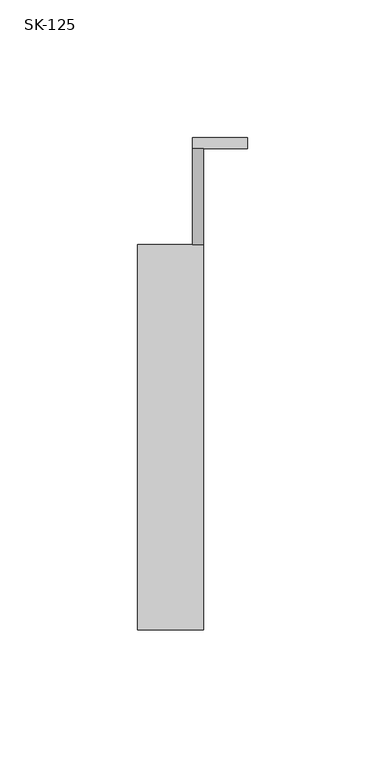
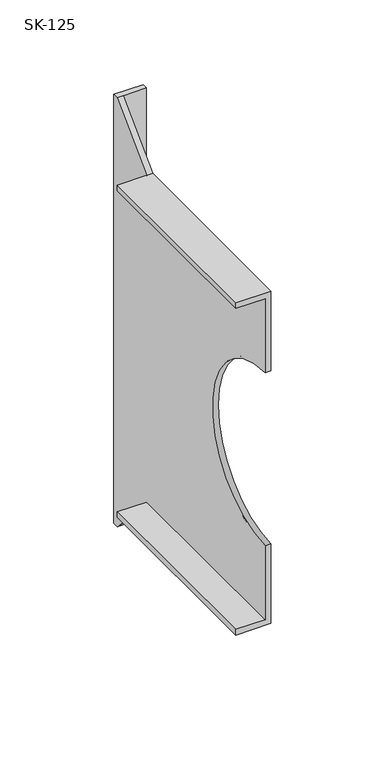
"""IFC4 building model written with IfcOpenShell, lengths in millimetres: duct fitting geometry, СВ_Кронштейн_Круглый_DN100-315_SK : SK-125."""

from ifc_helpers import new_model, si_unit, frame, origin, place, context, project, spatial, polyline, circle_curve, source, transform, mapped, element, save
from ifc_brep_helpers import plane_surface, revolved_surface, advanced_brep


def sk_125_be8d9755(model_context):
    return source(origin(), model_context, "Body", "AdvancedBrep", [
        advanced_brep(
        [(4.0, 175.0, 155.0), (4.0, 140.0, 120.0), (4.0, 0.0, 120.0), (4.0, 0.0, 62.5), (4.0, 0.0, -62.5), (4.0, 0.0, -120.0), (4.0, 140.0, -120.0), (4.0, 175.0, -155.0), (0.0, 175.0, -155.0), (0.0, 140.0, -120.0), (0.0, 140.0, -116.0), (0.0, 0.0, -116.0), (0.0, 0.0, -62.5), (0.0, 0.0, 62.5), (0.0, 0.0, 116.0), (0.0, 140.0, 116.0), (0.0, 140.0, 120.0), (0.0, 175.0, 155.0), (0.0, 179.0, 155.0), (0.0, 179.0, -155.0), (-20.0, 140.0, 120.0), (-20.0, 0.0, 120.0), (-20.0, 0.0, 116.0), (-20.0, 0.0, -116.0), (-20.0, 0.0, -120.0), (-20.0, 140.0, -120.0), (-20.0, 140.0, -116.0), (-20.0, 140.0, 116.0), (20.0, 175.0, -155.0), (20.0, 179.0, -155.0), (20.0, 179.0, 155.0), (20.0, 175.0, 155.0)],
        [
            (0, 1),
            (1, 2),
            (2, 3),
            (3, 4, circle_curve(frame((4.0, 0.0, 0.0), z_axis=(-1.0, 0.0, 0.0), x_axis=(0.0, 1.0, 0.0)), 62.5)),
            (4, 5),
            (5, 6),
            (6, 7),
            (7, 0),
            (8, 9),
            (9, 10),
            (10, 11),
            (11, 12),
            (12, 13, circle_curve(frame((0.0, 0.0, 0.0), z_axis=(1.0, 0.0, 0.0), x_axis=(0.0, 1.0, 0.0)), 62.5)),
            (13, 14),
            (14, 15),
            (15, 16),
            (16, 17),
            (17, 18),
            (18, 19),
            (19, 8),
            (0, 17),
            (16, 1),
            (16, 20),
            (20, 21),
            (21, 2),
            (21, 22),
            (22, 14),
            (13, 3),
            (12, 4),
            (11, 23),
            (23, 24),
            (24, 5),
            (24, 25),
            (25, 9),
            (9, 6),
            (8, 7),
            (23, 26),
            (26, 25),
            (27, 22),
            (20, 27),
            (15, 27),
            (26, 10),
            (28, 29),
            (29, 30),
            (30, 31),
            (31, 28),
            (19, 29),
            (28, 7),
            (18, 30),
            (0, 31),
        ],
        [
            plane_surface(frame((4.0, 175.0, 155.0), z_axis=(1.0, 0.0, 0.0), x_axis=(0.0, 0.0, 1.0))),
            plane_surface(frame((0.0, 175.0, 155.0), z_axis=(-1.0, 0.0, 0.0), x_axis=(0.0, 0.0, -1.0))),
            plane_surface(frame((4.0, 175.0, 155.0), z_axis=(0.0, -0.7071067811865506, 0.7071067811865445), x_axis=(-1.0, 0.0, 0.0))),
            plane_surface(frame((4.0, 140.0, 120.0), z_axis=(0.0, 0.0, 1.0), x_axis=(-1.0, 0.0, 0.0))),
            plane_surface(frame((4.0, 0.0, 120.0), z_axis=(0.0, -1.0, 0.0), x_axis=(-1.0, 0.0, 0.0))),
            revolved_surface(polyline([(0.0, 62.5, 0.0), (4.0, 62.5, 0.0)]), (0.0, 0.0, 0.0), (-1.0, 0.0, 0.0)),
            plane_surface(frame((4.0, 0.0, -62.5), z_axis=(0.0, -1.0, 0.0), x_axis=(-1.0, 0.0, 0.0))),
            plane_surface(frame((4.0, 0.0, -120.0), z_axis=(0.0, 0.0, -1.0), x_axis=(-1.0, 0.0, 0.0))),
            plane_surface(frame((4.0, 140.0, -120.0), z_axis=(0.0, -0.7071067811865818, -0.7071067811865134), x_axis=(-1.0, 0.0, 0.0))),
            plane_surface(frame((-20.0, 140.0, 120.0), z_axis=(-1.0, 0.0, 0.0), x_axis=(0.0, 0.0, -1.0))),
            plane_surface(frame((0.0, 140.0, 116.0), z_axis=(0.0, 1.0, 0.0), x_axis=(-1.0, 0.0, 0.0))),
            plane_surface(frame((0.0, 0.0, 116.0), z_axis=(0.0, 0.0, -1.0), x_axis=(-1.0, 0.0, 0.0))),
            plane_surface(frame((0.0, 140.0, -120.0), z_axis=(0.0, 1.0, 0.0), x_axis=(-1.0, 0.0, 0.0))),
            plane_surface(frame((0.0, 140.0, -116.0), z_axis=(0.0, 0.0, 1.0), x_axis=(-1.0, 0.0, 0.0))),
            plane_surface(frame((20.0, 175.0, -155.0), z_axis=(1.0, 0.0, 0.0), x_axis=(0.0, 1.0, 0.0))),
            plane_surface(frame((20.0, 175.0, -155.0), z_axis=(0.0, 0.0, -1.0), x_axis=(-1.0, 0.0, 0.0))),
            plane_surface(frame((20.0, 179.0, -155.0), z_axis=(0.0, 1.0, 0.0), x_axis=(-1.0, 0.0, 0.0))),
            plane_surface(frame((20.0, 179.0, 155.0), z_axis=(0.0, 0.0, 1.0), x_axis=(-1.0, 0.0, 0.0))),
            plane_surface(frame((20.0, 175.0, 155.0), z_axis=(0.0, -1.0, 0.0), x_axis=(-1.0, 0.0, 0.0))),
        ],
        [
            (0, [[1, 2, 3, 4, 5, 6, 7, 8]]),
            (1, [[9, 10, 11, 12, 13, 14, 15, 16, 17, 18, 19, 20]]),
            (2, [[-1, 21, -17, 22]]),
            (3, [[-2, -22, 23, 24, 25]]),
            (4, [[-3, -25, 26, 27, -14, 28]]),
            (5, [[-4, -28, -13, 29]]),
            (6, [[-5, -29, -12, 30, 31, 32]]),
            (7, [[-6, -32, 33, 34, 35]]),
            (8, [[-7, -35, -9, 36]]),
            (9, [[-33, -31, 37, 38]]),
            (9, [[39, -26, -24, 40]]),
            (10, [[-40, -23, -16, 41]]),
            (11, [[-39, -41, -15, -27]]),
            (12, [[-38, 42, -10, -34]]),
            (13, [[-37, -30, -11, -42]]),
            (14, [[43, 44, 45, 46]]),
            (15, [[-20, 47, -43, 48, -36]]),
            (16, [[-19, 49, -44, -47]]),
            (17, [[-18, -21, 50, -45, -49]]),
            (18, [[-46, -50, -8, -48]]),
        ],
    ),
    ])


if __name__ == "__main__":
    model = new_model("IFC4")
    model_context = context("Model", 3, world=origin())
    ifc_project = project(units=[si_unit("LENGTHUNIT", "METRE", prefix="MILLI")], contexts=[model_context])
    site = spatial("IfcSite", under=ifc_project)
    building = spatial("IfcBuilding", under=site)
    placement = place(None, origin())
    sk_125_shape = sk_125_be8d9755(model_context)
    element("IfcDuctFitting", 1, ObjectType="СВ_Кронштейн_Круглый_DN100-315_SK : SK-125", at=placement, inside=building, context=model_context, shape_type="MappedRepresentation", body=[
        mapped(sk_125_shape, transform((0.0, 0.0, 0.0), x_axis=(1.0, 0.0, 0.0), y_axis=(0.0, 1.0, 0.0), z_axis=(0.0, 0.0, 1.0))),
    ])
    save(model, "model.ifc")
